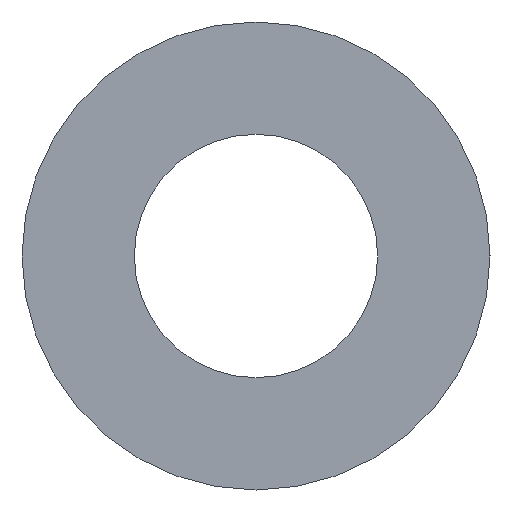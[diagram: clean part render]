
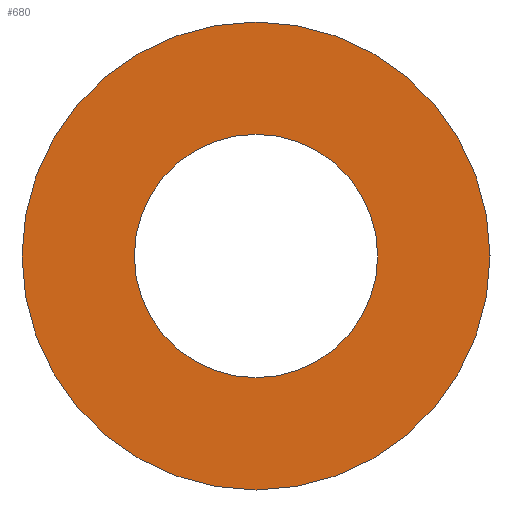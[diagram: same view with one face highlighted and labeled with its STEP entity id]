
A CAD part, left-side view. The second image highlights one B-rep face of the part: STEP entity #680.
In plain terms, the highlighted planar face has unit normal (-1, 0, 0) as drawn and (1, 0, 0) by its records, which use the part's own axes.
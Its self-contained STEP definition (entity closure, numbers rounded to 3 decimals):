
#100=CARTESIAN_POINT('',(5.43,48.43,13.));
#110=VERTEX_POINT('',#100);
#160=CARTESIAN_POINT('',(5.43,48.43,10.4));
#170=DIRECTION('',(-1.,0.,0.));
#180=DIRECTION('',(0.,0.,1.));
#190=AXIS2_PLACEMENT_3D('',#160,#170,#180);
#200=CIRCLE('',#190,2.6);
#210=CARTESIAN_POINT('',(5.43,48.43,7.8));
#220=VERTEX_POINT('',#210);
#230=EDGE_CURVE('',#110,#220,#200,.T.);
#430=CARTESIAN_POINT('',(5.43,48.43,14.2));
#440=DIRECTION('',(-1.,-0.,-0.));
#450=DIRECTION('',(0.,0.,-1.));
#460=AXIS2_PLACEMENT_3D('',#430,#440,#450);
#470=PLANE('',#460);
#480=ORIENTED_EDGE('',*,*,#230,.T.);
#490=EDGE_CURVE('',#220,#110,#200,.T.);
#500=ORIENTED_EDGE('',*,*,#490,.T.);
#510=EDGE_LOOP('',(#500,#480));
#520=FACE_BOUND('',#510,.T.);
#530=CARTESIAN_POINT('',(5.43,48.43,10.4));
#540=DIRECTION('',(-1.,0.,0.));
#550=DIRECTION('',(0.,0.,1.));
#560=AXIS2_PLACEMENT_3D('',#530,#540,#550);
#570=CIRCLE('',#560,5.);
#580=CARTESIAN_POINT('',(5.43,48.43,15.4));
#590=VERTEX_POINT('',#580);
#600=CARTESIAN_POINT('',(5.43,48.43,5.4));
#610=VERTEX_POINT('',#600);
#620=EDGE_CURVE('',#590,#610,#570,.T.);
#630=ORIENTED_EDGE('',*,*,#620,.F.);
#640=EDGE_CURVE('',#610,#590,#570,.T.);
#650=ORIENTED_EDGE('',*,*,#640,.F.);
#660=EDGE_LOOP('',(#650,#630));
#670=FACE_OUTER_BOUND('',#660,.T.);
#680=ADVANCED_FACE('',(#520,#670),#470,.F.);
